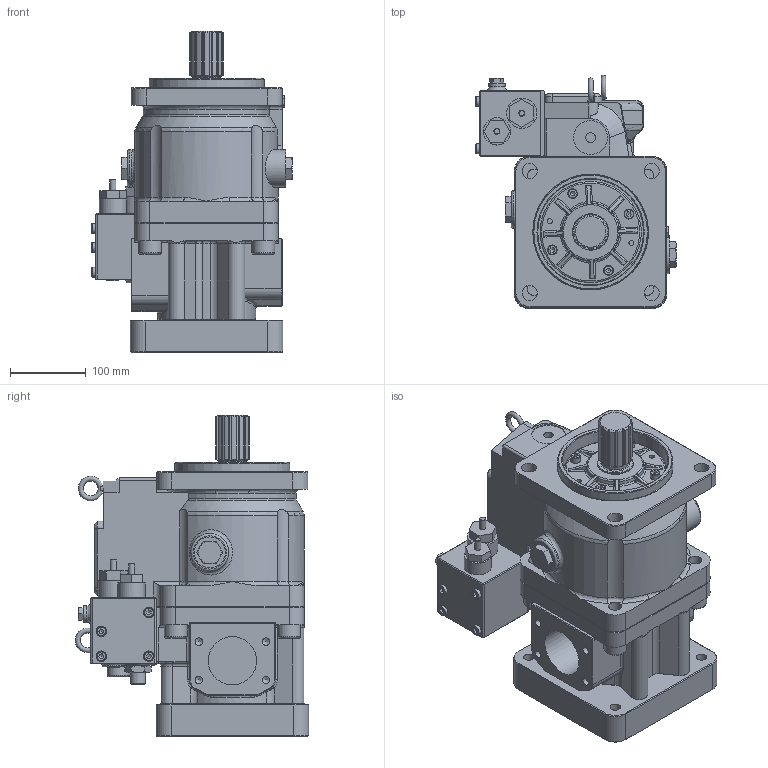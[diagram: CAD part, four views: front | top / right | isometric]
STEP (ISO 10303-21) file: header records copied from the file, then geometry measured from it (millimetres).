
FILE_DESCRIPTION((''),'2;1');
FILE_NAME('I:\Inventor\K3V, M2X\MODEL LIBRARY\K3VL140B 1DLSM L1.stp','2007-04-24T14:51:46',('mnorman'),(''),'Autodesk Inventor 11','Autodesk Inventor 11','');
FILE_SCHEMA(('AUTOMOTIVE_DESIGN { 1 0 10303 214 1 1 1 1 }'));
Length unit declared in the file: millimetre
Products named in the file (1): Part7
Bounding box: 265.3 x 308.99 x 425.5 mm (x, y, z)
Volume: 13127275.1 mm3; surface area: 704627.6 mm2
Topology: 1 solids, 27 shells, 1201 faces, 2799 edges, 1714 vertices
Faces by surface type: plane 520, cylinder 249, bspline 243, cone 151, torus 36, sphere 2
Full cylindrical faces by diameter (mm): 8 x12, 9.5 x4, 12 x4, 12.717 x1, 13 x8, 13.5 x2, 13.835 x2, 16 x2, 18 x4, 20 x12, 21 x1, 22 x1, 30 x5, 32 x1, 36 x1, 36.7 x1, 40 x1, 41 x2, 45 x1, 48 x2, 50 x2, 64 x1, 65 x1, 68 x1, 75 x1, 82.55 x2, 90 x2, 100 x1, 134 x1, 140 x1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
Entity records: 41785 total; most frequent: CARTESIAN_POINT 17327, ORIENTED_EDGE 4906, DIRECTION 4862, EDGE_CURVE 2453, AXIS2_PLACEMENT_3D 1902, VERTEX_POINT 1615, EDGE_LOOP 1552, FACE_OUTER_BOUND 1200
